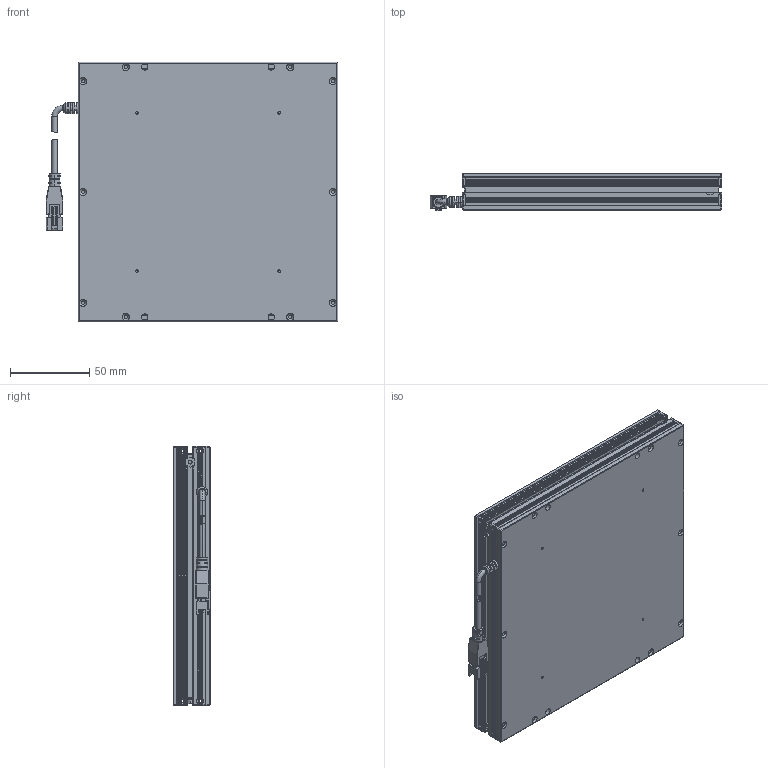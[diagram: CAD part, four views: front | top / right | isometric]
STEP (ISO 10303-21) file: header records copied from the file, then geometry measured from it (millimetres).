
FILE_DESCRIPTION (( 'STEP AP214' ), '1' );
FILE_NAME ('2FLP150150.STEP', '2023-11-27T03:50:30', ( '' ), ( '' ), 'SwSTEP 2.0', 'SolidWorks 2014', '' );
FILE_SCHEMA (( 'AUTOMOTIVE_DESIGN' ));
Length unit declared in the file: millimetre
Products named in the file (1): 2FLP150150
Bounding box: 184.25 x 23.65 x 164 mm (x, y, z)
Surface area: 135811.1 mm2 (no closed solid volume)
Topology: 0 solids, 13 shells, 788 faces, 2432 edges, 1604 vertices
Faces by surface type: plane 392, cylinder 335, cone 44, bspline 14, torus 3
Entity records: 36930 total; most frequent: CARTESIAN_POINT 7104, ORIENTED_EDGE 4363, DIRECTION 4256, EDGE_CURVE 2426, VERTEX_POINT 1604, LINE 1434, VECTOR 1434, AXIS2_PLACEMENT_3D 1411
